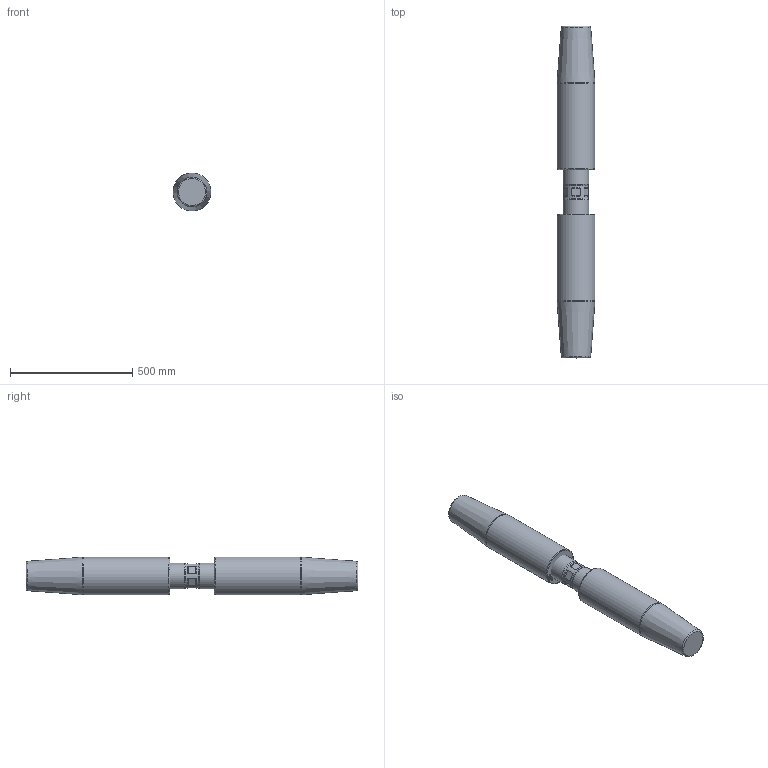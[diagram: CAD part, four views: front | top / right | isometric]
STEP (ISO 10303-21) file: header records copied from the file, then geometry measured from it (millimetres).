
FILE_DESCRIPTION(/* description */ (''),/* implementation_level */ '2;1');
FILE_NAME(/* name */ 'D:\Clienti\Redaelli (inventor)\CYA\STEP\Arrangement\CYA052 52 061 2.stp',/* time_stamp */ '2021-05-09T10:15:14+02:00',/* author */ ('fabri'),/* organization */ (''),/* preprocessor_version */ 'ST-DEVELOPER v16.13',/* originating_system */ 'Autodesk Inventor 2018',/* authorisation */ '');
FILE_SCHEMA (('AUTOMOTIVE_DESIGN { 1 0 10303 214 3 1 1 }'));
Length unit declared in the file: millimetre
Products named in the file (4): CYA012-54-062-0; TBF012-12-012-1; TBF012-13-012-0; TBF012-13-012-0_1
Assembly tree (3 placements, depth 2):
  CYA012-54-062-0
    TBF012-12-012-1
    TBF012-13-012-0
    TBF012-13-012-0_1
Bounding box: 154.89 x 1356 x 154.89 mm (x, y, z)
Volume: 25541148.6 mm3; surface area: 822667.3 mm2
Topology: 3 solids, 3 shells, 496 faces, 1341 edges, 894 vertices
Faces by surface type: bspline 264, plane 201, cylinder 19, cone 8, torus 4
Full cylindrical faces by diameter (mm): 8.376 x2, 101 x1, 105 x2, 155 x2
Entity records: 17275 total; most frequent: CARTESIAN_POINT 6585, ORIENTED_EDGE 2640, EDGE_CURVE 1320, DIRECTION 1276, VERTEX_POINT 892, LINE 742, VECTOR 742, EDGE_LOOP 558
